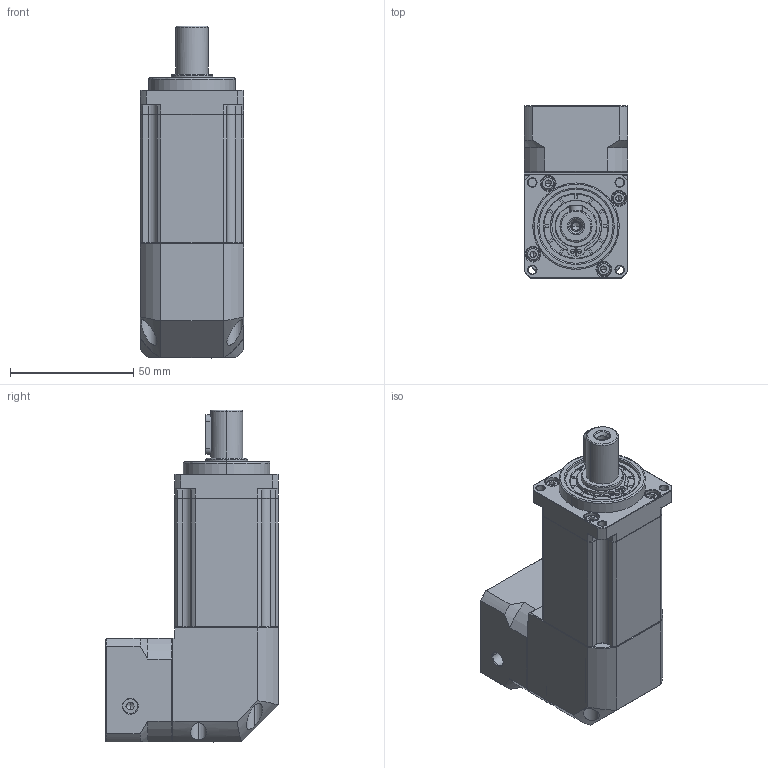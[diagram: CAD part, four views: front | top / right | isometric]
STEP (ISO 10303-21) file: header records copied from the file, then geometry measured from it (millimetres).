
FILE_DESCRIPTION (( 'STEP AP214' ), '1' );
FILE_NAME ('ZBR40-L3-P2-8-30-45-M3.STEP', '2023-06-06T13:14:09', ( 'Windows 蚚誧' ), ( 'Organization' ), 'SwSTEP 2.0', 'SolidWorks 2016', '' );
FILE_SCHEMA (( 'AUTOMOTIVE_DESIGN' ));
Length unit declared in the file: millimetre
Products named in the file (1): ZBR40-L3-P2-8-30-45-M3
Bounding box: 42 x 70 x 134.5 mm (x, y, z)
Volume: 205433.5 mm3; surface area: 45547 mm2
Topology: 7 solids, 7 shells, 2489 faces, 6650 edges, 4303 vertices
Faces by surface type: plane 1239, bspline 570, cylinder 412, cone 268
Entity records: 136687 total; most frequent: CARTESIAN_POINT 51903, ORIENTED_EDGE 13256, DIRECTION 9588, EDGE_CURVE 6628, VERTEX_POINT 4303, VECTOR 4244, LINE 4244, EDGE_LOOP 2677
